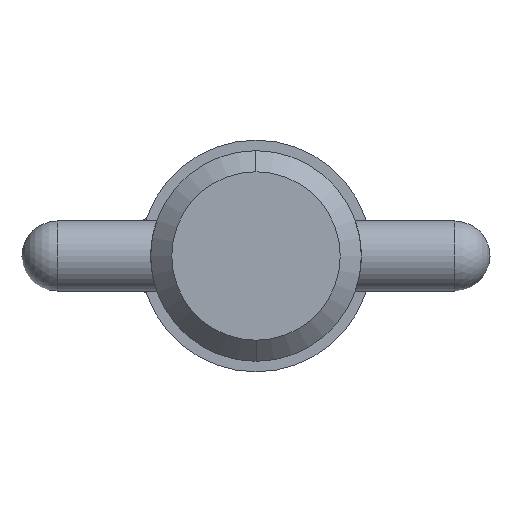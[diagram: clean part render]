
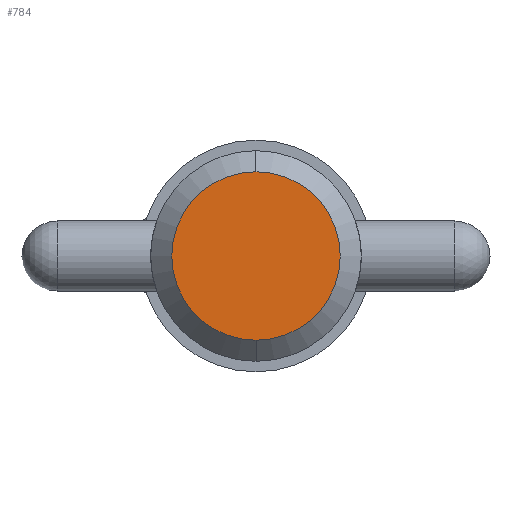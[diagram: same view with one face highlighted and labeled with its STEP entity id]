
A CAD part, left-side view. The second image highlights one B-rep face of the part: STEP entity #784.
In plain terms, the highlighted planar face has unit normal (-1, 0, 0).
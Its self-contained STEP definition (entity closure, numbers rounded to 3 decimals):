
#30 = EDGE_LOOP ( 'NONE', ( #161, #72 ) ) ;
#72 = ORIENTED_EDGE ( 'NONE', *, *, #208, .F. ) ;
#161 = ORIENTED_EDGE ( 'NONE', *, *, #1038, .F. ) ;
#167 = AXIS2_PLACEMENT_3D ( 'NONE', #944, #451, #1008 ) ;
#197 = CARTESIAN_POINT ( 'NONE',  ( 0., 0., 0. ) ) ;
#202 = DIRECTION ( 'NONE',  ( 1., 0., 0. ) ) ;
#208 = EDGE_CURVE ( 'NONE', #628, #601, #509, .T. ) ;
#288 = PLANE ( 'NONE',  #167 ) ;
#333 = CARTESIAN_POINT ( 'NONE',  ( 0., 0., 5.716 ) ) ;
#451 = DIRECTION ( 'NONE',  ( -1., 0., 0. ) ) ;
#509 = CIRCLE ( 'NONE', #920, 5.716 ) ;
#601 = VERTEX_POINT ( 'NONE', #841 ) ;
#628 = VERTEX_POINT ( 'NONE', #333 ) ;
#705 = FACE_OUTER_BOUND ( 'NONE', #30, .T. ) ;
#737 = DIRECTION ( 'NONE',  ( 1., 0., 0. ) ) ;
#744 = DIRECTION ( 'NONE',  ( 0., 0., -1. ) ) ;
#784 = ADVANCED_FACE ( 'NONE', ( #705 ), #288, .T. ) ;
#818 = CIRCLE ( 'NONE', #1025, 5.716 ) ;
#836 = CARTESIAN_POINT ( 'NONE',  ( 0., 0., 0. ) ) ;
#841 = CARTESIAN_POINT ( 'NONE',  ( 0., 0., -5.716 ) ) ;
#861 = DIRECTION ( 'NONE',  ( 0., 0., -1. ) ) ;
#920 = AXIS2_PLACEMENT_3D ( 'NONE', #197, #202, #861 ) ;
#944 = CARTESIAN_POINT ( 'NONE',  ( 0., 0., 0. ) ) ;
#1008 = DIRECTION ( 'NONE',  ( 0., 0., 1. ) ) ;
#1025 = AXIS2_PLACEMENT_3D ( 'NONE', #836, #737, #744 ) ;
#1038 = EDGE_CURVE ( 'NONE', #601, #628, #818, .T. ) ;
